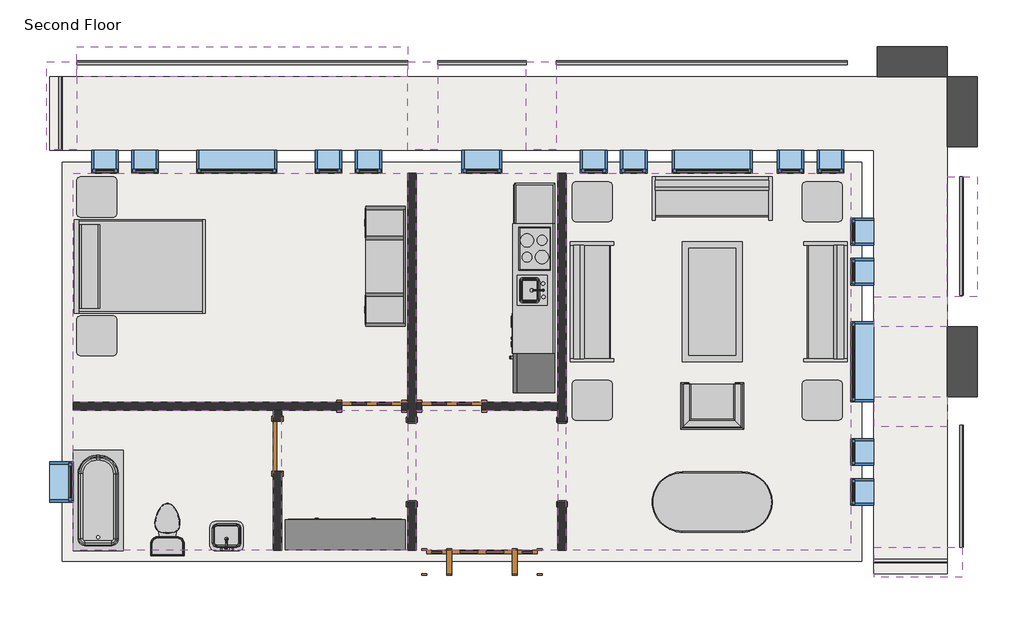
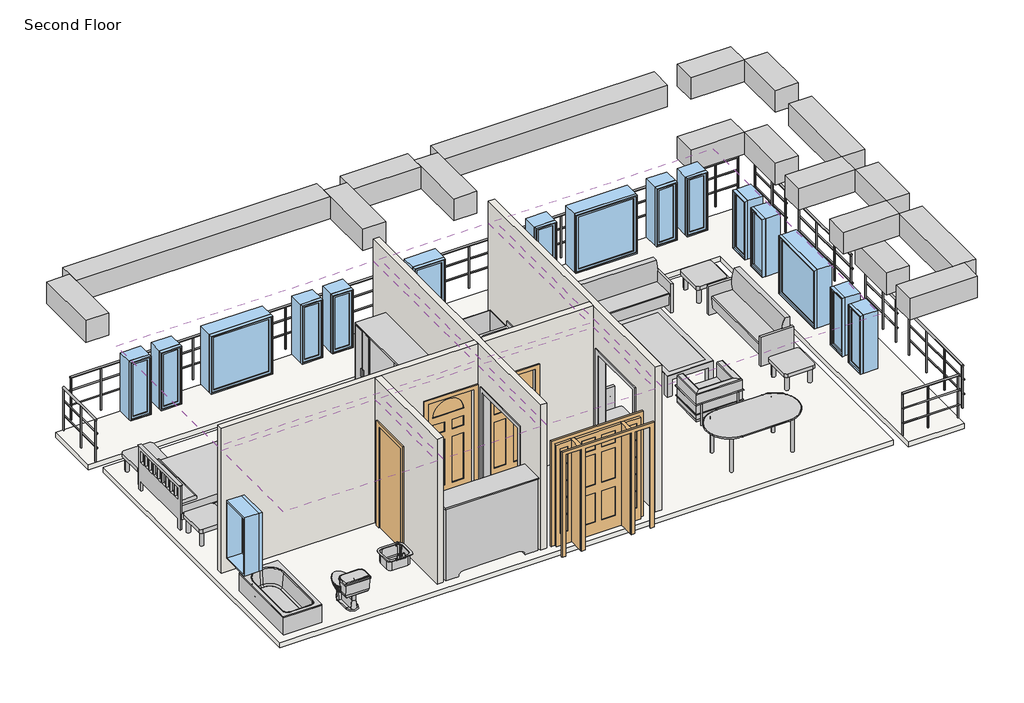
# One storey: 17 windows, 15 furniture elements, 11 beams, 10 railings, 6 coverings, 5 walls, 4 doors, 3 flow terminals, 5 other elements.
"""IFC4 building model written with IfcOpenShell, lengths in millimetres."""

from ifc_helpers import new_model, si_unit, frame, origin, place, context, project, spatial, polyline, outline, extrude, faceted_brep, transform, mapped, element, save
from components import proxy_64a468c4, proxy_f44482cc, door_829da954, door_2e3b4da2, door_4d6c7550, door_dba5aa2e, flow_terminal_0aeb31e3, toilet_domestic_3d_toilet_domestic_3d_f7549cf7, toilet_domestic_3d_toilet_domestic_3d_183bbd19, tub_rectangular_3d_tub_rectangular_3d_5e45a89b, furniture_096e7f55, chair_corbu_chair_corbu_2764bdef, furniture_7c473f12, furniture_ddc78764, furniture_4ef38d96, furniture_cd93a443, furniture_2c34a4f9, furniture_3a588284, furniture_1befe2a2, handrail_rectangular_4972241b, handrail_rectangular_1381a444, handrail_rectangular_01eef90d, handrail_rectangular_13a1ee30, handrail_rectangular_03016c17, handrail_rectangular_3ccce273, handrail_rectangular_54a3796f, handrail_rectangular_59770213, handrail_rectangular_8efd4f22, handrail_rectangular_e9e78f14, window_da97879f, window_d61ef850, window_60baf983, window_6eb97611

model = new_model("IFC4")

# Units and contexts
model_context = context("Model", 3, world=origin())
ifc_project = project(units=[si_unit("LENGTHUNIT", "METRE", prefix="MILLI")], contexts=[model_context])

# Site, building, storey
site = spatial("IfcSite", under=ifc_project)
building = spatial("IfcBuilding", under=site)
storey = spatial("IfcBuildingStorey", under=building, Name="Second Floor", Elevation=3048.0)

# Beams
placement = place(None, origin())
element("IfcBeam", 1, ObjectType="Concrete-Rectangular Beam : 18 x 18", at=placement, inside=storey, context=model_context, shape_type="Brep", body=[
    faceted_brep([(-11164.8589563, 10624.0316867, 6096.0), (-11622.0589563, 10624.0316867, 6096.0), (-11622.0589563, 10624.0316867, 5638.8), (-11164.8589563, 10624.0316867, 5638.8), (-11164.8589563, 11741.6316867, 6096.0), (-11164.8589563, 11970.2316867, 6096.0), (-11622.0589563, 11970.2316867, 6096.0), (-11622.0589563, 11970.2316867, 5638.8), (-11164.8589563, 11970.2316867, 5638.8), (-11164.8589563, 11741.6316867, 5638.8)], [[[0, 1, 2, 3]], [[1, 0, 4, 5, 6]], [[2, 1, 6, 7]], [[3, 2, 7, 8, 9]], [[0, 3, 9, 8, 5, 4]], [[5, 8, 7, 6]]]),
])
element("IfcBeam", 2, ObjectType="Concrete-Rectangular Beam : 18 x 18", at=placement, inside=storey, context=model_context, shape_type="Brep", body=[
    faceted_brep([(976.3410437, 4121.6316867, 6096.0), (976.3410437, 4578.8316867, 6096.0), (976.3410437, 4578.8316867, 5638.8), (976.3410437, 4121.6316867, 5638.8), (2322.5410437, 4121.6316867, 6096.0), (2322.5410437, 4578.8316867, 6096.0), (2093.9410437, 4578.8316867, 6096.0), (2322.5410437, 4578.8316867, 5638.8), (2093.9410437, 4578.8316867, 5638.8), (2322.5410437, 4121.6316867, 5638.8)], [[[0, 1, 2, 3]], [[1, 0, 4, 5, 6]], [[2, 1, 6, 5, 7, 8]], [[3, 2, 8, 7, 9]], [[0, 3, 9, 4]], [[4, 9, 7, 5]]]),
])
element("IfcBeam", 3, ObjectType="Concrete-Rectangular Beam : 18 x 18", at=placement, inside=storey, context=model_context, shape_type="SweptSolid", body=[
    extrude(outline(polyline([(1027.1410437, 11741.6316867), (1027.1410437, 12198.8316867), (2093.9410437, 12198.8316867), (2093.9410437, 11741.6316867), (1027.1410437, 11741.6316867)])), frame((0.0, 0.0, 4114.8), z_axis=(0.0, 0.0, 1.0), x_axis=(1.0, 0.0, 0.0)), (0.0, 0.0, 1.0), 457.2),
])
element("IfcBeam", 4, ObjectType="Concrete-Rectangular Beam : 18 x 18", at=placement, inside=storey, context=model_context, shape_type="SweptSolid", body=[
    extrude(outline(polyline([(2551.1410437, 10674.8316867), (2093.9410437, 10674.8316867), (2093.9410437, 11741.6316867), (2551.1410437, 11741.6316867), (2551.1410437, 10674.8316867)])), frame((0.0, 0.0, 4114.8), z_axis=(0.0, 0.0, 1.0), x_axis=(1.0, 0.0, 0.0)), (0.0, 0.0, 1.0), 457.2),
])
element("IfcBeam", 5, ObjectType="Concrete-Rectangular Beam : 18 x 18", at=placement, inside=storey, context=model_context, shape_type="SweptSolid", body=[
    extrude(outline(polyline([(2551.1410437, 6864.8316867), (2093.9410437, 6864.8316867), (2093.9410437, 7931.6316867), (2551.1410437, 7931.6316867), (2551.1410437, 6864.8316867)])), frame((0.0, 0.0, 4114.8), z_axis=(0.0, 0.0, 1.0), x_axis=(1.0, 0.0, 0.0)), (0.0, 0.0, 1.0), 457.2),
])
element("IfcBeam", 6, ObjectType="Concrete-Rectangular Beam : 18 x 18", at=placement, inside=storey, context=model_context, shape_type="Brep", body=[
    faceted_brep([(-5665.7589563, 10624.0316867, 6096.0), (-6122.9589563, 10624.0316867, 6096.0), (-6122.9589563, 10624.0316867, 5638.8), (-5665.7589563, 10624.0316867, 5638.8), (-5665.7589563, 11741.6316867, 6096.0), (-5665.7589563, 11970.2316867, 6096.0), (-6122.9589563, 11970.2316867, 6096.0), (-6122.9589563, 11741.6316867, 6096.0), (-6122.9589563, 11970.2316867, 5638.8), (-6122.9589563, 11741.6316867, 5638.8), (-5665.7589563, 11970.2316867, 5638.8), (-5665.7589563, 11741.6316867, 5638.8)], [[[0, 1, 2, 3]], [[1, 0, 4, 5, 6, 7]], [[2, 1, 7, 6, 8, 9]], [[3, 2, 9, 8, 10, 11]], [[0, 3, 11, 10, 5, 4]], [[5, 10, 8, 6]]]),
])
element("IfcBeam", 7, ObjectType="Concrete-Rectangular Beam : 18 x 18", at=placement, inside=storey, context=model_context, shape_type="Brep", body=[
    faceted_brep([(-3862.3589563, 10624.0316867, 6096.0), (-4319.5589563, 10624.0316867, 6096.0), (-4319.5589563, 10624.0316867, 5638.8), (-3862.3589563, 10624.0316867, 5638.8), (-3862.3589563, 11741.6316867, 6096.0), (-3862.3589563, 11970.2316867, 6096.0), (-4319.5589563, 11970.2316867, 6096.0), (-4319.5589563, 11741.6316867, 6096.0), (-4319.5589563, 11970.2316867, 5638.8), (-4319.5589563, 11741.6316867, 5638.8), (-3862.3589563, 11970.2316867, 5638.8), (-3862.3589563, 11741.6316867, 5638.8)], [[[0, 1, 2, 3]], [[1, 0, 4, 5, 6, 7]], [[2, 1, 7, 6, 8, 9]], [[3, 2, 9, 8, 10, 11]], [[0, 3, 11, 10, 5, 4]], [[5, 10, 8, 6]]]),
])
element("IfcBeam", 8, ObjectType="Concrete-Rectangular Beam : 18 x 18", at=placement, inside=storey, context=model_context, shape_type="SweptSolid", body=[
    extrude(outline(polyline([(976.3410437, 6407.6316867), (976.3410437, 6864.8316867), (2093.9410437, 6864.8316867), (2093.9410437, 6407.6316867), (976.3410437, 6407.6316867)])), frame((0.0, 0.0, 5638.8), z_axis=(0.0, 0.0, 1.0), x_axis=(1.0, 0.0, 0.0)), (0.0, 0.0, 1.0), 457.2),
])
element("IfcBeam", 9, ObjectType="Concrete-Rectangular Beam : 18 x 18", at=placement, inside=storey, context=model_context, shape_type="SweptSolid", body=[
    extrude(outline(polyline([(976.3410437, 7931.6316867), (976.3410437, 8388.8316867), (2093.9410437, 8388.8316867), (2093.9410437, 7931.6316867), (976.3410437, 7931.6316867)])), frame((0.0, 0.0, 5638.8), z_axis=(0.0, 0.0, 1.0), x_axis=(1.0, 0.0, 0.0)), (0.0, 0.0, 1.0), 457.2),
])
element("IfcBeam", 10, ObjectType="Concrete-Rectangular Beam : 18 x 18", at=placement, inside=storey, context=model_context, shape_type="Brep", body=[
    faceted_brep([(2093.9410437, 11741.6316867, 6096.0), (2093.9410437, 12198.8316867, 6096.0), (1027.1410437, 12198.8316867, 6096.0), (1027.1410437, 11741.6316867, 6096.0), (2093.9410437, 11741.6316867, 5638.8), (1027.1410437, 11741.6316867, 5638.8), (2093.9410437, 12198.8316867, 5638.8), (1027.1410437, 12198.8316867, 5638.8)], [[[0, 1, 2, 3]], [[4, 0, 3, 5]], [[6, 4, 5, 7]], [[1, 6, 7, 2]], [[1, 0, 4, 6]], [[3, 2, 7, 5]]]),
    faceted_brep([(-11164.8589563, 12198.8316867, 6096.0), (-11164.8589563, 12198.8316867, 5638.8), (-11164.8589563, 11970.2316867, 5638.8), (-11164.8589563, 11741.6316867, 5638.8), (-11164.8589563, 11741.6316867, 6096.0), (-11164.8589563, 11970.2316867, 6096.0), (-6122.9589563, 11741.6316867, 6096.0), (-6122.9589563, 11741.6316867, 5638.8), (-6122.9589563, 11970.2316867, 5638.8), (-6122.9589563, 12198.8316867, 5638.8), (-6122.9589563, 12198.8316867, 6096.0), (-6122.9589563, 11970.2316867, 6096.0)], [[[0, 1, 2, 3, 4, 5]], [[6, 7, 8, 9, 10, 11]], [[0, 5, 4, 6, 11, 10]], [[4, 3, 7, 6]], [[3, 2, 1, 9, 8, 7]], [[1, 0, 10, 9]]]),
    faceted_brep([(569.9410437, 12198.8316867, 6096.0), (569.9410437, 11741.6316867, 6096.0), (569.9410437, 11741.6316867, 5638.8), (569.9410437, 12198.8316867, 5638.8), (-3862.3589563, 12198.8316867, 6096.0), (-3862.3589563, 11970.2316867, 6096.0), (-3862.3589563, 11741.6316867, 6096.0), (-3862.3589563, 11741.6316867, 5638.8), (-3862.3589563, 11970.2316867, 5638.8), (-3862.3589563, 12198.8316867, 5638.8)], [[[0, 1, 2, 3]], [[1, 0, 4, 5, 6]], [[2, 1, 6, 7]], [[3, 2, 7, 8, 9]], [[0, 3, 9, 4]], [[7, 6, 5, 4, 9, 8]]]),
    faceted_brep([(-4319.5589563, 11741.6316867, 6096.0), (-4319.5589563, 11741.6316867, 5638.8), (-4319.5589563, 11970.2316867, 5638.8), (-4319.5589563, 12198.8316867, 5638.8), (-4319.5589563, 12198.8316867, 6096.0), (-4319.5589563, 11970.2316867, 6096.0), (-5665.7589563, 12198.8316867, 6096.0), (-5665.7589563, 11970.2316867, 6096.0), (-5665.7589563, 11741.6316867, 6096.0), (-5665.7589563, 11741.6316867, 5638.8), (-5665.7589563, 11970.2316867, 5638.8), (-5665.7589563, 12198.8316867, 5638.8)], [[[0, 1, 2, 3, 4, 5]], [[4, 6, 7, 8, 0, 5]], [[1, 0, 8, 9]], [[1, 9, 10, 11, 3, 2]], [[4, 3, 11, 6]], [[9, 8, 7, 6, 11, 10]]]),
])
element("IfcBeam", 11, ObjectType="Concrete-Rectangular Beam : 18 x 18", at=placement, inside=storey, context=model_context, shape_type="Brep", body=[
    faceted_brep([(2093.9410437, 4578.8316867, 6096.0), (2322.5410437, 4578.8316867, 6096.0), (2551.1410437, 4578.8316867, 6096.0), (2551.1410437, 6407.6316867, 6096.0), (2093.9410437, 6407.6316867, 6096.0), (2093.9410437, 4578.8316867, 5638.8), (2093.9410437, 6407.6316867, 5638.8), (2551.1410437, 4578.8316867, 5638.8), (2322.5410437, 4578.8316867, 5638.8), (2551.1410437, 6407.6316867, 5638.8)], [[[0, 1, 2, 3, 4]], [[5, 0, 4, 6]], [[7, 8, 5, 6, 9]], [[2, 7, 9, 3]], [[2, 1, 0, 5, 8, 7]], [[4, 3, 9, 6]]]),
    faceted_brep([(2551.1410437, 11741.6316867, 6096.0), (2551.1410437, 11741.6316867, 5638.8), (2093.9410437, 11741.6316867, 5638.8), (2093.9410437, 11741.6316867, 6096.0), (2551.1410437, 10674.8316867, 6096.0), (2093.9410437, 10674.8316867, 6096.0), (2093.9410437, 10674.8316867, 5638.8), (2551.1410437, 10674.8316867, 5638.8)], [[[0, 1, 2, 3]], [[4, 5, 6, 7]], [[0, 3, 5, 4]], [[3, 2, 6, 5]], [[2, 1, 7, 6]], [[1, 0, 4, 7]]]),
    faceted_brep([(2093.9410437, 10217.6316867, 6096.0), (2551.1410437, 10217.6316867, 6096.0), (2551.1410437, 10217.6316867, 5638.8), (2093.9410437, 10217.6316867, 5638.8), (2551.1410437, 8388.8316867, 6096.0), (2093.9410437, 8388.8316867, 6096.0), (2093.9410437, 8388.8316867, 5638.8), (2551.1410437, 8388.8316867, 5638.8)], [[[0, 1, 2, 3]], [[4, 5, 6, 7]], [[1, 0, 5, 4]], [[0, 3, 6, 5]], [[3, 2, 7, 6]], [[2, 1, 4, 7]]]),
    faceted_brep([(2551.1410437, 6864.8316867, 6096.0), (2093.9410437, 6864.8316867, 6096.0), (2093.9410437, 6864.8316867, 5638.8), (2551.1410437, 6864.8316867, 5638.8), (2551.1410437, 7931.6316867, 6096.0), (2093.9410437, 7931.6316867, 6096.0), (2093.9410437, 7931.6316867, 5638.8), (2551.1410437, 7931.6316867, 5638.8)], [[[0, 1, 2, 3]], [[1, 0, 4, 5]], [[2, 1, 5, 6]], [[3, 2, 6, 7]], [[0, 3, 7, 4]], [[5, 4, 7, 6]]]),
])

# Proxies
proxy_shape = proxy_64a468c4(model_context)
element("IfcBuildingElementProxy", 12, Name="Kitchenette - Medium : 8'6\"", ObjectType="Kitchenette - Medium : 8'6\"", at=placement, inside=storey, context=model_context, shape_type="MappedRepresentation", body=[
    mapped(proxy_shape, transform((-3887.7589563, 8837.7956433, 3048.0), x_axis=(0.0, -1.0, 0.0), y_axis=(1.0, 0.0, 0.0), z_axis=(0.0, 0.0, 1.0))),
])
proxy_2_shape = proxy_f44482cc(model_context)
element("IfcBuildingElementProxy", 13, Name="Opening-Cased : 48\" x 84\"", ObjectType="Opening-Cased : 48\" x 84\"", at=placement, inside=storey, context=model_context, shape_type="MappedRepresentation", body=[
    mapped(proxy_2_shape, transform((-3773.4589563, 5882.4203434, 3048.0), x_axis=(0.0, 1.0, 0.0), y_axis=(-1.0, 0.0, 0.0), z_axis=(0.0, 0.0, 1.0))),
])
element("IfcBuildingElementProxy", 14, Name="Opening-Cased : 48\" x 84\"", ObjectType="Opening-Cased : 48\" x 84\"", at=placement, inside=storey, context=model_context, shape_type="MappedRepresentation", body=[
    mapped(proxy_2_shape, transform((-6059.4589563, 5866.04303, 3048.0), x_axis=(0.0, -1.0, 0.0), y_axis=(1.0, 0.0, 0.0), z_axis=(0.0, 0.0, 1.0))),
])

# Coverings
element("IfcCovering", 15, ObjectType="GWB on Mtl. Stud", at=placement, inside=storey, context=model_context, shape_type="SweptSolid", body=[
    extrude(outline(polyline([(-11217.2464563, 10270.0191867), (-6122.9589563, 10270.0191867), (-6122.9589563, 6787.0441867), (-11217.2464563, 6787.0441867), (-11217.2464563, 10270.0191867)])), frame((0.0, 0.0, 5638.8), z_axis=(0.0, 0.0, 1.0), x_axis=(1.0, 0.0, 0.0)), (0.0, 0.0, 1.0), 107.95),
])
element("IfcCovering", 16, ObjectType="GWB on Mtl. Stud", at=placement, inside=storey, context=model_context, shape_type="SweptSolid", body=[
    extrude(outline(polyline([(-5995.9589563, 6787.0441867), (-5995.9589563, 10270.0191867), (-3836.9589563, 10270.0191867), (-3836.9589563, 6787.0441867), (-5995.9589563, 6787.0441867)])), frame((0.0, 0.0, 5638.8), z_axis=(0.0, 0.0, 1.0), x_axis=(1.0, 0.0, 0.0)), (0.0, 0.0, 1.0), 107.95),
])
element("IfcCovering", 17, ObjectType="GWB on Mtl. Stud", at=placement, inside=storey, context=model_context, shape_type="SweptSolid", body=[
    extrude(outline(polyline([(-3709.9589563, 4526.4441867), (-3709.9589563, 10270.0191867), (622.3285437, 10270.0191867), (622.3285437, 4526.4441867), (-3709.9589563, 4526.4441867)])), frame((0.0, 0.0, 5638.8), z_axis=(0.0, 0.0, 1.0), x_axis=(1.0, 0.0, 0.0)), (0.0, 0.0, 1.0), 107.95),
])
element("IfcCovering", 18, ObjectType="GWB on Mtl. Stud", at=placement, inside=storey, context=model_context, shape_type="SweptSolid", body=[
    extrude(outline(polyline([(-3836.9589563, 4526.4441867), (-5995.9589563, 4526.4441867), (-5995.9589563, 6660.0441867), (-3836.9589563, 6660.0441867), (-3836.9589563, 4526.4441867)])), frame((0.0, 0.0, 5638.8), z_axis=(0.0, 0.0, 1.0), x_axis=(1.0, 0.0, 0.0)), (0.0, 0.0, 1.0), 107.95),
])
element("IfcCovering", 19, ObjectType="GWB on Mtl. Stud", at=placement, inside=storey, context=model_context, shape_type="SweptSolid", body=[
    extrude(outline(polyline([(-6122.9589563, 4526.4441867), (-8042.2464563, 4526.4441867), (-8042.2464563, 6660.0441867), (-6122.9589563, 6660.0441867), (-6122.9589563, 4526.4441867)])), frame((0.0, 0.0, 5638.8), z_axis=(0.0, 0.0, 1.0), x_axis=(1.0, 0.0, 0.0)), (0.0, 0.0, 1.0), 107.95),
])
element("IfcCovering", 20, ObjectType="GWB on Mtl. Stud", at=placement, inside=storey, context=model_context, shape_type="SweptSolid", body=[
    extrude(outline(polyline([(-8169.2464563, 6660.0441867), (-8169.2464563, 4526.4441867), (-11217.2464563, 4526.4441867), (-11217.2464563, 6660.0441867), (-8169.2464563, 6660.0441867)])), frame((0.0, 0.0, 5638.8), z_axis=(0.0, 0.0, 1.0), x_axis=(1.0, 0.0, 0.0)), (0.0, 0.0, 1.0), 107.95),
])

# Doors
door_shape = door_829da954(model_context)
element("IfcDoor", 21, ObjectType="Single-Decorative 2 : 36\" x 84\"", at=placement, inside=storey, context=model_context, shape_type="MappedRepresentation", body=[
    mapped(door_shape, transform((-5449.8589563, 6723.5441867, 3048.0), x_axis=(-1.0, 0.0, 0.0), y_axis=(0.0, -1.0, 0.0), z_axis=(0.0, 0.0, 1.0))),
])
door_2_shape = door_2e3b4da2(model_context)
element("IfcDoor", 22, ObjectType="Single-Decorative 2 : 36\" x 84\"", at=placement, inside=storey, context=model_context, shape_type="MappedRepresentation", body=[
    mapped(door_2_shape, transform((-6669.0589563, 6723.5441867, 3048.0), x_axis=(1.0, 0.0, 0.0), y_axis=(0.0, 1.0, 0.0), z_axis=(0.0, 0.0, 1.0))),
])
door_3_shape = door_4d6c7550(model_context)
element("IfcDoor", 23, ObjectType="Single-Flush : 30\" x 84\"", at=placement, inside=storey, context=model_context, shape_type="MappedRepresentation", body=[
    mapped(door_3_shape, transform((-8105.7464563, 6113.9441867, 3048.0), x_axis=(0.0, 1.0, 0.0), y_axis=(-1.0, 0.0, 0.0), z_axis=(0.0, 0.0, 1.0))),
])
door_4_shape = door_dba5aa2e(model_context)
element("IfcDoor", 24, ObjectType="Single-Raised Panel with Sidelights : 36\" x 84\"", at=placement, inside=storey, context=model_context, shape_type="MappedRepresentation", body=[
    mapped(door_4_shape, transform((-4992.6589563, 4350.2316867, 3048.0), x_axis=(-1.0, 0.0, 0.0), y_axis=(0.0, -1.0, 0.0), z_axis=(0.0, 0.0, 1.0))),
])

# Flow terminals
flow_terminal_shape = flow_terminal_0aeb31e3(model_context)
element("IfcFlowTerminal", 25, ObjectType="Sink Vanity-Square : 24\" x 19\"", at=placement, inside=storey, context=model_context, shape_type="MappedRepresentation", body=[
    mapped(flow_terminal_shape, transform((-8864.7572157, 4706.5895878, 3048.0), x_axis=(-1.0, 0.0, 0.0), y_axis=(0.0, -1.0, 0.0), z_axis=(0.0, 0.0, 1.0))),
])
toilet_domestic_3d_toilet_domestic_3d_shape = toilet_domestic_3d_toilet_domestic_3d_f7549cf7(model_context)
toilet_domestic_3d_toilet_domestic_3d_2_shape = toilet_domestic_3d_toilet_domestic_3d_183bbd19(model_context)
element("IfcFlowTerminal", 26, ObjectType="Toilet-Domestic-3D : Toilet-Domestic-3D", at=placement, inside=storey, context=model_context, shape_type="MappedRepresentation", body=[
    mapped(toilet_domestic_3d_toilet_domestic_3d_shape, transform((-9782.1466587, 4940.866411, 3048.0), x_axis=(-1.0000000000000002, 0.0, 0.0), y_axis=(0.0, -1.0000000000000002, 0.0), z_axis=(0.0, 0.0, 1.0))),
    mapped(toilet_domestic_3d_toilet_domestic_3d_2_shape, transform((-9782.1466587, 4940.866411, 3048.0), x_axis=(-1.0000000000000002, 0.0, 0.0), y_axis=(0.0, -1.0000000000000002, 0.0), z_axis=(0.0, 0.0, 1.0))),
])
tub_rectangular_3d_tub_rectangular_3d_shape = tub_rectangular_3d_tub_rectangular_3d_5e45a89b(model_context)
element("IfcFlowTerminal", 27, ObjectType="Tub-Rectangular-3D : Tub-Rectangular-3D", at=placement, inside=storey, context=model_context, shape_type="MappedRepresentation", body=[
    mapped(tub_rectangular_3d_tub_rectangular_3d_shape, transform((-11393.4589563, 5637.0471554, 3048.0), x_axis=(0.0, 1.0, 0.0), y_axis=(-1.0, 0.0, 0.0), z_axis=(0.0, 0.0, 1.0))),
])

# Furniture
furniture_shape = furniture_096e7f55(model_context)
element("IfcFurniture", 28, ObjectType="Bed-Shaker : Double 56\" x 78\"", at=placement, inside=storey, context=model_context, shape_type="MappedRepresentation", body=[
    mapped(furniture_shape, transform((-11183.1982802, 8871.8755561, 3048.0), x_axis=(0.0, 1.0, 0.0), y_axis=(-1.0, 0.0, 0.0), z_axis=(0.0, 0.0, 1.0))),
])
chair_corbu_chair_corbu_shape = chair_corbu_chair_corbu_2764bdef(model_context)
element("IfcFurniture", 29, ObjectType="Chair-Corbu : Chair-Corbu", at=placement, inside=storey, context=model_context, shape_type="MappedRepresentation", body=[
    mapped(chair_corbu_chair_corbu_shape, transform((-914.0851858, 7193.4962359, 3048.0), x_axis=(-1.0, 0.0, 0.0), y_axis=(0.0, -1.0, 0.0), z_axis=(0.0, 0.0, 1.0))),
])
furniture_2_shape = furniture_7c473f12(model_context)
element("IfcFurniture", 30, ObjectType="Dresser : 72\" x 60\" x 18\"", at=placement, inside=storey, context=model_context, shape_type="MappedRepresentation", body=[
    mapped(furniture_2_shape, transform((-7344.6522161, 4404.5812326, 3048.0), x_axis=(-1.0, 0.0, 0.0), y_axis=(0.0, -1.0, 0.0), z_axis=(0.0, 0.0, 1.0))),
])
furniture_3_shape = furniture_ddc78764(model_context)
element("IfcFurniture", 31, ObjectType="Entertainment Center : 72\" x 72\" x 24\"", at=placement, inside=storey, context=model_context, shape_type="MappedRepresentation", body=[
    mapped(furniture_3_shape, transform((-6059.4589563, 8852.8255561, 3048.0), x_axis=(0.0, -1.0, 0.0), y_axis=(1.0, 0.0, 0.0), z_axis=(0.0, 0.0, 1.0))),
])
furniture_4_shape = furniture_4ef38d96(model_context)
element("IfcFurniture", 32, ObjectType="Sofa : 72\"", at=placement, inside=storey, context=model_context, shape_type="MappedRepresentation", body=[
    mapped(furniture_4_shape, transform((-1557.8294481, 9741.2775883, 3048.0), x_axis=(1.0, 0.0, 0.0), y_axis=(0.0, 1.0, 0.0), z_axis=(0.0, 0.0, 1.0))),
])
element("IfcFurniture", 33, ObjectType="Sofa : 72\"", at=placement, inside=storey, context=model_context, shape_type="MappedRepresentation", body=[
    mapped(furniture_4_shape, transform((93.5869453, 8383.0021785, 3048.0), x_axis=(0.0, -1.0, 0.0), y_axis=(1.0, 0.0, 0.0), z_axis=(0.0, 0.0, 1.0))),
])
element("IfcFurniture", 34, ObjectType="Sofa : 72\"", at=placement, inside=storey, context=model_context, shape_type="MappedRepresentation", body=[
    mapped(furniture_4_shape, transform((-3170.104858, 8242.2611949, 3048.0), x_axis=(0.0, 1.0, 0.0), y_axis=(-1.0, 0.0, 0.0), z_axis=(0.0, 0.0, 1.0))),
])
furniture_5_shape = furniture_cd93a443(model_context)
element("IfcFurniture", 35, ObjectType="Table-Coffee : 36\" x 72\" x 18\"", at=placement, inside=storey, context=model_context, shape_type="MappedRepresentation", body=[
    mapped(furniture_5_shape, transform((-1582.6700341, 8330.8974534, 3048.0), x_axis=(0.0, -1.0, 0.0), y_axis=(1.0, 0.0, 0.0), z_axis=(0.0, 0.0, 1.0))),
])
furniture_6_shape = furniture_2c34a4f9(model_context)
element("IfcFurniture", 36, ObjectType="Table-Dining Oval : 36\" x 72\"", at=placement, inside=storey, context=model_context, shape_type="MappedRepresentation", body=[
    mapped(furniture_6_shape, transform((-1085.6392842, 5622.7300473, 3048.0), x_axis=(1.0, 0.0, 0.0), y_axis=(0.0, 1.0, 0.0), z_axis=(0.0, 0.0, 1.0))),
])
furniture_7_shape = furniture_3a588284(model_context)
element("IfcFurniture", 37, ObjectType="Table-End : 24\" x 24\"", at=placement, inside=storey, context=model_context, shape_type="MappedRepresentation", body=[
    mapped(furniture_7_shape, transform((-119.5925866, 9684.2316867, 3048.0), x_axis=(1.0, 0.0, 0.0), y_axis=(0.0, 1.0, 0.0), z_axis=(0.0, 0.0, 1.0))),
])
element("IfcFurniture", 38, ObjectType="Table-End : 24\" x 24\"", at=placement, inside=storey, context=model_context, shape_type="MappedRepresentation", body=[
    mapped(furniture_7_shape, transform((-3624.7925866, 9684.2316867, 3048.0), x_axis=(1.0, 0.0, 0.0), y_axis=(0.0, 1.0, 0.0), z_axis=(0.0, 0.0, 1.0))),
])
element("IfcFurniture", 39, ObjectType="Table-End : 24\" x 24\"", at=placement, inside=storey, context=model_context, shape_type="MappedRepresentation", body=[
    mapped(furniture_7_shape, transform((-3624.7925866, 6660.0441867, 3048.0), x_axis=(1.0, 0.0, 0.0), y_axis=(0.0, 1.0, 0.0), z_axis=(0.0, 0.0, 1.0))),
])
element("IfcFurniture", 40, ObjectType="Table-End : 24\" x 24\"", at=placement, inside=storey, context=model_context, shape_type="MappedRepresentation", body=[
    mapped(furniture_7_shape, transform((-119.5925866, 6660.0441867, 3048.0), x_axis=(1.0, 0.0, 0.0), y_axis=(0.0, 1.0, 0.0), z_axis=(0.0, 0.0, 1.0))),
])
element("IfcFurniture", 41, ObjectType="Table-End : 24\" x 24\"", at=placement, inside=storey, context=model_context, shape_type="MappedRepresentation", body=[
    mapped(furniture_7_shape, transform((-11164.2346356, 9756.0737357, 3048.0), x_axis=(1.0, 0.0, 0.0), y_axis=(0.0, 1.0, 0.0), z_axis=(0.0, 0.0, 1.0))),
])
furniture_8_shape = furniture_1befe2a2(model_context)
element("IfcFurniture", 42, ObjectType="Table-End : 24\" x 24\"", at=placement, inside=storey, context=model_context, shape_type="MappedRepresentation", body=[
    mapped(furniture_8_shape, transform((-11164.2346356, 7949.5773764, 3048.0), x_axis=(1.0, 0.0, 0.0), y_axis=(0.0, 1.0, 0.0), z_axis=(0.0, 0.0, 1.0))),
])

# Railings
handrail_rectangular_shape = handrail_rectangular_4972241b(model_context)
element("IfcRailing", 43, ObjectType="Handrail - Rectangular", at=placement, inside=storey, context=model_context, shape_type="MappedRepresentation", body=[
    mapped(handrail_rectangular_shape, transform((0.0, 0.0, 0.0), x_axis=(1.0, 0.0, 0.0), y_axis=(0.0, 1.0, 0.0), z_axis=(0.0, 0.0, 1.0))),
])
handrail_rectangular_2_shape = handrail_rectangular_1381a444(model_context)
element("IfcRailing", 44, ObjectType="Handrail - Rectangular", at=placement, inside=storey, context=model_context, shape_type="MappedRepresentation", body=[
    mapped(handrail_rectangular_2_shape, transform((0.0, 0.0, 0.0), x_axis=(1.0, 0.0, 0.0), y_axis=(0.0, 1.0, 0.0), z_axis=(0.0, 0.0, 1.0))),
])
handrail_rectangular_3_shape = handrail_rectangular_01eef90d(model_context)
element("IfcRailing", 45, ObjectType="Handrail - Rectangular", at=placement, inside=storey, context=model_context, shape_type="MappedRepresentation", body=[
    mapped(handrail_rectangular_3_shape, transform((0.0, 0.0, 0.0), x_axis=(1.0, 0.0, 0.0), y_axis=(0.0, 1.0, 0.0), z_axis=(0.0, 0.0, 1.0))),
])
handrail_rectangular_4_shape = handrail_rectangular_13a1ee30(model_context)
element("IfcRailing", 46, ObjectType="Handrail - Rectangular", at=placement, inside=storey, context=model_context, shape_type="MappedRepresentation", body=[
    mapped(handrail_rectangular_4_shape, transform((0.0, 0.0, 0.0), x_axis=(1.0, 0.0, 0.0), y_axis=(0.0, 1.0, 0.0), z_axis=(0.0, 0.0, 1.0))),
])
handrail_rectangular_5_shape = handrail_rectangular_03016c17(model_context)
element("IfcRailing", 47, ObjectType="Handrail - Rectangular", at=placement, inside=storey, context=model_context, shape_type="MappedRepresentation", body=[
    mapped(handrail_rectangular_5_shape, transform((0.0, 0.0, 0.0), x_axis=(1.0, 0.0, 0.0), y_axis=(0.0, 1.0, 0.0), z_axis=(0.0, 0.0, 1.0))),
])
handrail_rectangular_6_shape = handrail_rectangular_3ccce273(model_context)
element("IfcRailing", 48, ObjectType="Handrail - Rectangular", at=placement, inside=storey, context=model_context, shape_type="MappedRepresentation", body=[
    mapped(handrail_rectangular_6_shape, transform((0.0, 0.0, 0.0), x_axis=(1.0, 0.0, 0.0), y_axis=(0.0, 1.0, 0.0), z_axis=(0.0, 0.0, 1.0))),
])
handrail_rectangular_7_shape = handrail_rectangular_54a3796f(model_context)
element("IfcRailing", 49, ObjectType="Handrail - Rectangular", at=placement, inside=storey, context=model_context, shape_type="MappedRepresentation", body=[
    mapped(handrail_rectangular_7_shape, transform((0.0, 0.0, 0.0), x_axis=(1.0, 0.0, 0.0), y_axis=(0.0, 1.0, 0.0), z_axis=(0.0, 0.0, 1.0))),
])
handrail_rectangular_8_shape = handrail_rectangular_59770213(model_context)
element("IfcRailing", 50, ObjectType="Handrail - Rectangular", at=placement, inside=storey, context=model_context, shape_type="MappedRepresentation", body=[
    mapped(handrail_rectangular_8_shape, transform((0.0, 0.0, 0.0), x_axis=(1.0, 0.0, 0.0), y_axis=(0.0, 1.0, 0.0), z_axis=(0.0, 0.0, 1.0))),
])
handrail_rectangular_9_shape = handrail_rectangular_8efd4f22(model_context)
element("IfcRailing", 51, ObjectType="Handrail - Rectangular", at=placement, inside=storey, context=model_context, shape_type="MappedRepresentation", body=[
    mapped(handrail_rectangular_9_shape, transform((0.0, 0.0, 0.0), x_axis=(1.0, 0.0, 0.0), y_axis=(0.0, 1.0, 0.0), z_axis=(0.0, 0.0, 1.0))),
])
handrail_rectangular_10_shape = handrail_rectangular_e9e78f14(model_context)
element("IfcRailing", 52, ObjectType="Handrail - Rectangular", at=placement, inside=storey, context=model_context, shape_type="MappedRepresentation", body=[
    mapped(handrail_rectangular_10_shape, transform((0.0, 0.0, 0.0), x_axis=(1.0, 0.0, 0.0), y_axis=(0.0, 1.0, 0.0), z_axis=(0.0, 0.0, 1.0))),
])

# Slabs
element("IfcSlab", 53, ObjectType="LW Concrete on Metal Deck", at=placement, inside=storey, context=model_context, shape_type="SweptSolid", body=[
    extrude(outline(polyline([(787.4285437, 10435.1191867), (787.4285437, 4361.3441867), (-11382.3464563, 4361.3441867), (-11382.3464563, 10435.1191867), (787.4285437, 10435.1191867)])), frame((0.0, 0.0, 2943.225), z_axis=(0.0, 0.0, 1.0), x_axis=(1.0, 0.0, 0.0)), (0.0, 0.0, 1.0), 104.775),
])
element("IfcSlab", 54, ObjectType="LW Concrete on Metal Deck", at=placement, inside=storey, context=model_context, shape_type="SweptSolid", body=[
    extrude(outline(polyline([(2093.9410437, 11741.6316867), (2093.9410437, 4174.0191867), (974.7535437, 4174.0191867), (974.7535437, 10622.4441867), (-11569.6714563, 10622.4441867), (-11569.6714563, 11741.6316867), (2093.9410437, 11741.6316867)])), frame((0.0, 0.0, 2943.225), z_axis=(0.0, 0.0, 1.0), x_axis=(1.0, 0.0, 0.0)), (0.0, 0.0, 1.0), 104.775),
])

# Walls
element("IfcWall", 55, ObjectType="Interior - 5\" Partition (2-hr)", at=placement, inside=storey, context=model_context, shape_type="Brep", body=[
    faceted_brep([(-3709.9589563, 10270.0191867, 3048.0), (-3709.9589563, 6483.8316867, 3048.0), (-3836.9589563, 6483.8316867, 3048.0), (-3836.9589563, 6660.0441867, 3048.0), (-3836.9589563, 6787.0441867, 3048.0), (-3836.9589563, 10270.0191867, 3048.0), (-3709.9589563, 5264.6316867, 3048.0), (-3709.9589563, 4526.4441867, 3048.0), (-3836.9589563, 4526.4441867, 3048.0), (-3836.9589563, 5264.6316867, 3048.0), (-3836.9589563, 10270.0191867, 6096.0), (-3836.9589563, 6787.0441867, 6096.0), (-3836.9589563, 6660.0441867, 6096.0), (-3836.9589563, 4526.4441867, 6096.0), (-3709.9589563, 4526.4441867, 6096.0), (-3709.9589563, 10270.0191867, 6096.0), (-3836.9589563, 6483.8316867, 5181.6), (-3836.9589563, 5264.6316867, 5181.6), (-3709.9589563, 6483.8316867, 5181.6), (-3709.9589563, 5264.6316867, 5181.6)], [[[0, 1, 2, 3, 4, 5]], [[6, 7, 8, 9]], [[10, 11, 12, 13, 14, 15]], [[5, 4, 3, 2, 16, 17, 9, 8, 13, 12, 11, 10]], [[18, 1, 0, 15, 14, 7, 6, 19]], [[5, 10, 15, 0]], [[13, 8, 7, 14]], [[9, 17, 19, 6]], [[16, 2, 1, 18]], [[17, 16, 18, 19]]]),
])
element("IfcWall", 56, ObjectType="Interior - 5\" Partition (2-hr)", at=placement, inside=storey, context=model_context, shape_type="Brep", body=[
    faceted_brep([(-6122.9589563, 4526.4441867, 3048.0), (-6122.9589563, 5264.6316867, 3048.0), (-5995.9589563, 5264.6316867, 3048.0), (-5995.9589563, 4526.4441867, 3048.0), (-6122.9589563, 6483.8316867, 3048.0), (-6122.9589563, 6660.0441867, 3048.0), (-6122.9589563, 6787.0441867, 3048.0), (-6122.9589563, 10270.0191867, 3048.0), (-5995.9589563, 10270.0191867, 3048.0), (-5995.9589563, 6787.0441867, 3048.0), (-5995.9589563, 6660.0441867, 3048.0), (-5995.9589563, 6483.8316867, 3048.0), (-6122.9589563, 10270.0191867, 6096.0), (-6122.9589563, 6787.0441867, 6096.0), (-6122.9589563, 6660.0441867, 6096.0), (-6122.9589563, 4526.4441867, 6096.0), (-5995.9589563, 4526.4441867, 6096.0), (-5995.9589563, 6660.0441867, 6096.0), (-5995.9589563, 6787.0441867, 6096.0), (-5995.9589563, 10270.0191867, 6096.0), (-6122.9589563, 5264.6316867, 5181.6), (-6122.9589563, 6483.8316867, 5181.6), (-5995.9589563, 5264.6316867, 5181.6), (-5995.9589563, 6483.8316867, 5181.6)], [[[0, 1, 2, 3]], [[4, 5, 6, 7, 8, 9, 10, 11]], [[12, 13, 14, 15, 16, 17, 18, 19]], [[20, 1, 0, 15, 14, 13, 12, 7, 6, 5, 4, 21]], [[3, 2, 22, 23, 11, 10, 9, 8, 19, 18, 17, 16]], [[7, 12, 19, 8]], [[15, 0, 3, 16]], [[11, 23, 21, 4]], [[22, 2, 1, 20]], [[23, 22, 20, 21]]]),
])
element("IfcWall", 57, ObjectType="Interior - 5\" Partition (2-hr)", at=placement, inside=storey, context=model_context, shape_type="Brep", body=[
    faceted_brep([(-6122.9589563, 6660.0441867, 3048.0), (-6211.8589563, 6660.0441867, 3048.0), (-6211.8589563, 6787.0441867, 3048.0), (-6122.9589563, 6787.0441867, 3048.0), (-7126.2589563, 6660.0441867, 3048.0), (-8042.2464563, 6660.0441867, 3048.0), (-8169.2464563, 6660.0441867, 3048.0), (-11217.2464563, 6660.0441867, 3048.0), (-11217.2464563, 6787.0441867, 3048.0), (-7126.2589563, 6787.0441867, 3048.0), (-11217.2464563, 6660.0441867, 6096.0), (-8169.2464563, 6660.0441867, 6096.0), (-8042.2464563, 6660.0441867, 6096.0), (-6122.9589563, 6660.0441867, 6096.0), (-6122.9589563, 6787.0441867, 6096.0), (-11217.2464563, 6787.0441867, 6096.0), (-6211.8589563, 6660.0441867, 5181.6), (-7126.2589563, 6660.0441867, 5181.6), (-6211.8589563, 6787.0441867, 5181.6), (-7126.2589563, 6787.0441867, 5181.6)], [[[0, 1, 2, 3]], [[4, 5, 6, 7, 8, 9]], [[10, 11, 12, 13, 14, 15]], [[16, 1, 0, 13, 12, 11, 10, 7, 6, 5, 4, 17]], [[3, 2, 18, 19, 9, 8, 15, 14]], [[13, 0, 3, 14]], [[7, 10, 15, 8]], [[18, 2, 1, 16]], [[19, 18, 16, 17]], [[9, 19, 17, 4]]]),
])
element("IfcWall", 58, ObjectType="Interior - 5\" Partition (2-hr)", at=placement, inside=storey, context=model_context, shape_type="SweptSolid", body=[
    extrude(outline(polyline([(6660.0441867, 3048.0), (6494.9441867, 3048.0), (6494.9441867, 5181.6), (5732.9441867, 5181.6), (5732.9441867, 3048.0), (4526.4441867, 3048.0), (4526.4441867, 6096.0), (6660.0441867, 6096.0), (6660.0441867, 3048.0)])), frame((-8169.2464563, 0.0, 0.0), z_axis=(1.0, 0.0, 0.0), x_axis=(0.0, 1.0, 0.0)), (0.0, 0.0, 1.0), 127.0),
])
element("IfcWall", 59, ObjectType="Interior - 5\" Partition (2-hr)", at=placement, inside=storey, context=model_context, shape_type="SweptSolid", body=[
    extrude(outline(polyline([(3048.0, -5995.9589563), (3048.0, -5907.0589563), (5181.6, -5907.0589563), (5181.6, -4992.6589563), (3048.0, -4992.6589563), (3048.0, -3836.9589563), (6096.0, -3836.9589563), (6096.0, -5995.9589563), (3048.0, -5995.9589563)])), frame((0.0, 6660.0441867, 0.0), z_axis=(0.0, 1.0, 0.0), x_axis=(0.0, 0.0, 1.0)), (0.0, 0.0, 1.0), 127.0),
])

# Windows
window_shape = window_da97879f(model_context)
element("IfcWindow", 60, ObjectType="Fixed : 16\" x 48\"", at=placement, inside=storey, context=model_context, shape_type="MappedRepresentation", body=[
    mapped(window_shape, transform((-10771.1589563, 10446.2316867, 3048.0), x_axis=(-1.0, 0.0, 0.0), y_axis=(0.0, -1.0, 0.0), z_axis=(0.0, 0.0, 1.0))),
])
element("IfcWindow", 61, ObjectType="Fixed : 16\" x 48\"", at=placement, inside=storey, context=model_context, shape_type="MappedRepresentation", body=[
    mapped(window_shape, transform((-10161.5589563, 10446.2316867, 3048.0), x_axis=(-1.0, 0.0, 0.0), y_axis=(0.0, -1.0, 0.0), z_axis=(0.0, 0.0, 1.0))),
])
element("IfcWindow", 62, ObjectType="Fixed : 16\" x 48\"", at=placement, inside=storey, context=model_context, shape_type="MappedRepresentation", body=[
    mapped(window_shape, transform((-3328.9589563, 10446.2316867, 3048.0), x_axis=(-1.0, 0.0, 0.0), y_axis=(0.0, -1.0, 0.0), z_axis=(0.0, 0.0, 1.0))),
])
element("IfcWindow", 63, ObjectType="Fixed : 16\" x 48\"", at=placement, inside=storey, context=model_context, shape_type="MappedRepresentation", body=[
    mapped(window_shape, transform((-2719.3589563, 10446.2316867, 3048.0), x_axis=(-1.0, 0.0, 0.0), y_axis=(0.0, -1.0, 0.0), z_axis=(0.0, 0.0, 1.0))),
])
element("IfcWindow", 64, ObjectType="Fixed : 16\" x 48\"", at=placement, inside=storey, context=model_context, shape_type="MappedRepresentation", body=[
    mapped(window_shape, transform((798.5410437, 9417.5316867, 3048.0), x_axis=(0.0, 1.0, 0.0), y_axis=(-1.0, 0.0, 0.0), z_axis=(0.0, 0.0, 1.0))),
])
element("IfcWindow", 65, ObjectType="Fixed : 16\" x 48\"", at=placement, inside=storey, context=model_context, shape_type="MappedRepresentation", body=[
    mapped(window_shape, transform((798.5410437, 8807.9316867, 3048.0), x_axis=(0.0, 1.0, 0.0), y_axis=(-1.0, 0.0, 0.0), z_axis=(0.0, 0.0, 1.0))),
])
window_2_shape = window_d61ef850(model_context)
element("IfcWindow", 66, ObjectType="Fixed : 16\" x 48\"", at=placement, inside=storey, context=model_context, shape_type="MappedRepresentation", body=[
    mapped(window_2_shape, transform((-6681.7589563, 10446.2316867, 3048.0), x_axis=(1.0, 0.0, 0.0), y_axis=(0.0, 1.0, 0.0), z_axis=(0.0, 0.0, 1.0))),
])
element("IfcWindow", 67, ObjectType="Fixed : 16\" x 48\"", at=placement, inside=storey, context=model_context, shape_type="MappedRepresentation", body=[
    mapped(window_2_shape, transform((-7291.3589563, 10446.2316867, 3048.0), x_axis=(1.0, 0.0, 0.0), y_axis=(0.0, 1.0, 0.0), z_axis=(0.0, 0.0, 1.0))),
])
element("IfcWindow", 68, ObjectType="Fixed : 16\" x 48\"", at=placement, inside=storey, context=model_context, shape_type="MappedRepresentation", body=[
    mapped(window_2_shape, transform((354.0410437, 10446.2316867, 3048.0), x_axis=(1.0, 0.0, 0.0), y_axis=(0.0, 1.0, 0.0), z_axis=(0.0, 0.0, 1.0))),
])
element("IfcWindow", 69, ObjectType="Fixed : 16\" x 48\"", at=placement, inside=storey, context=model_context, shape_type="MappedRepresentation", body=[
    mapped(window_2_shape, transform((-255.5589563, 10446.2316867, 3048.0), x_axis=(1.0, 0.0, 0.0), y_axis=(0.0, 1.0, 0.0), z_axis=(0.0, 0.0, 1.0))),
])
element("IfcWindow", 70, ObjectType="Fixed : 16\" x 48\"", at=placement, inside=storey, context=model_context, shape_type="MappedRepresentation", body=[
    mapped(window_2_shape, transform((798.5410437, 5378.9316867, 3048.0), x_axis=(0.0, -1.0, 0.0), y_axis=(1.0, 0.0, 0.0), z_axis=(0.0, 0.0, 1.0))),
])
element("IfcWindow", 71, ObjectType="Fixed : 16\" x 48\"", at=placement, inside=storey, context=model_context, shape_type="MappedRepresentation", body=[
    mapped(window_2_shape, transform((798.5410437, 5988.5316867, 3048.0), x_axis=(0.0, -1.0, 0.0), y_axis=(1.0, 0.0, 0.0), z_axis=(0.0, 0.0, 1.0))),
])
window_3_shape = window_60baf983(model_context)
element("IfcWindow", 72, ObjectType="Fixed : 24\" x 48\"", at=placement, inside=storey, context=model_context, shape_type="MappedRepresentation", body=[
    mapped(window_3_shape, transform((-5030.7589563, 10446.2316867, 3048.0), x_axis=(-1.0, 0.0, 0.0), y_axis=(0.0, -1.0, 0.0), z_axis=(0.0, 0.0, 1.0))),
])
element("IfcWindow", 73, ObjectType="Fixed : 24\" x 48\"", at=placement, inside=storey, context=model_context, shape_type="MappedRepresentation", body=[
    mapped(window_3_shape, transform((-11393.4589563, 5531.3316867, 3048.0), x_axis=(0.0, -1.0, 0.0), y_axis=(1.0, 0.0, 0.0), z_axis=(0.0, 0.0, 1.0))),
])
window_4_shape = window_6eb97611(model_context)
element("IfcWindow", 74, ObjectType="Fixed : 48\" x 48\"", at=placement, inside=storey, context=model_context, shape_type="MappedRepresentation", body=[
    mapped(window_4_shape, transform((-8764.5589563, 10446.2316867, 3048.0), x_axis=(-1.0, 0.0, 0.0), y_axis=(0.0, -1.0, 0.0), z_axis=(0.0, 0.0, 1.0))),
])
element("IfcWindow", 75, ObjectType="Fixed : 48\" x 48\"", at=placement, inside=storey, context=model_context, shape_type="MappedRepresentation", body=[
    mapped(window_4_shape, transform((-1525.5589563, 10446.2316867, 3048.0), x_axis=(-1.0, 0.0, 0.0), y_axis=(0.0, -1.0, 0.0), z_axis=(0.0, 0.0, 1.0))),
])
element("IfcWindow", 76, ObjectType="Fixed : 48\" x 48\"", at=placement, inside=storey, context=model_context, shape_type="MappedRepresentation", body=[
    mapped(window_4_shape, transform((798.5410437, 7436.3316867, 3048.0), x_axis=(0.0, 1.0, 0.0), y_axis=(-1.0, 0.0, 0.0), z_axis=(0.0, 0.0, 1.0))),
])

save(model, "model.ifc")
